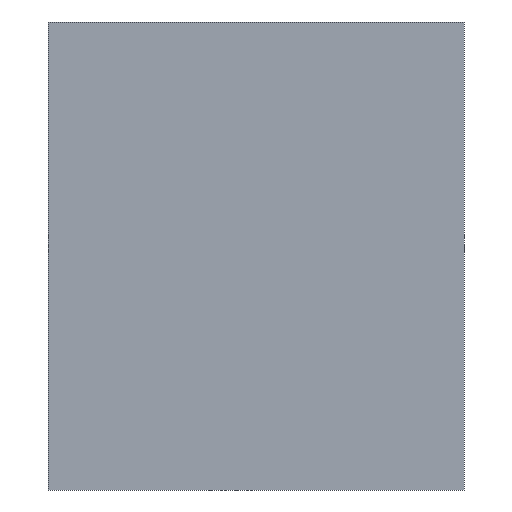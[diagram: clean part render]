
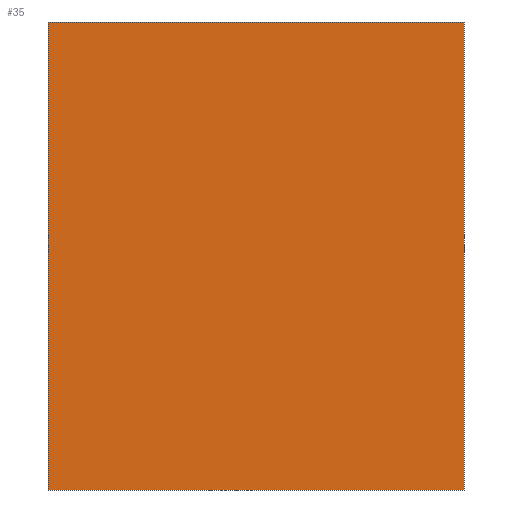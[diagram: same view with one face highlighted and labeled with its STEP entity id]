
A CAD part, left-side view. The second image highlights one B-rep face of the part: STEP entity #35.
In plain terms, the highlighted planar face has unit normal (-1, 0, 0).
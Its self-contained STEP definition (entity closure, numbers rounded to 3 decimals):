
#35 = ADVANCED_FACE('',(#36),#50,.F.);
#36 = FACE_BOUND('',#37,.F.);
#37 = EDGE_LOOP('',(#38,#73,#101,#129));
#38 = ORIENTED_EDGE('',*,*,#39,.F.);
#39 = EDGE_CURVE('',#40,#42,#44,.T.);
#40 = VERTEX_POINT('',#41);
#41 = CARTESIAN_POINT('',(-0.5,-4.,-4.5));
#42 = VERTEX_POINT('',#43);
#43 = CARTESIAN_POINT('',(-0.5,-4.,4.5));
#44 = SURFACE_CURVE('',#45,(#49,#61),.PCURVE_S1.);
#45 = LINE('',#46,#47);
#46 = CARTESIAN_POINT('',(-0.5,-4.,-4.5));
#47 = VECTOR('',#48,1.);
#48 = DIRECTION('',(0.,0.,1.));
#49 = PCURVE('',#50,#55);
#50 = PLANE('',#51);
#51 = AXIS2_PLACEMENT_3D('',#52,#53,#54);
#52 = CARTESIAN_POINT('',(-0.5,-4.,-4.5));
#53 = DIRECTION('',(1.,0.,-0.));
#54 = DIRECTION('',(0.,0.,1.));
#55 = DEFINITIONAL_REPRESENTATION('',(#56),#60);
#56 = LINE('',#57,#58);
#57 = CARTESIAN_POINT('',(0.,0.));
#58 = VECTOR('',#59,1.);
#59 = DIRECTION('',(1.,0.));
#60 = ( GEOMETRIC_REPRESENTATION_CONTEXT(2) 
PARAMETRIC_REPRESENTATION_CONTEXT() REPRESENTATION_CONTEXT('2D SPACE',''
  ) );
#61 = PCURVE('',#62,#67);
#62 = PLANE('',#63);
#63 = AXIS2_PLACEMENT_3D('',#64,#65,#66);
#64 = CARTESIAN_POINT('',(-0.5,-4.,-4.5));
#65 = DIRECTION('',(-0.,1.,0.));
#66 = DIRECTION('',(0.,0.,1.));
#67 = DEFINITIONAL_REPRESENTATION('',(#68),#72);
#68 = LINE('',#69,#70);
#69 = CARTESIAN_POINT('',(0.,0.));
#70 = VECTOR('',#71,1.);
#71 = DIRECTION('',(1.,0.));
#72 = ( GEOMETRIC_REPRESENTATION_CONTEXT(2) 
PARAMETRIC_REPRESENTATION_CONTEXT() REPRESENTATION_CONTEXT('2D SPACE',''
  ) );
#73 = ORIENTED_EDGE('',*,*,#74,.T.);
#74 = EDGE_CURVE('',#40,#75,#77,.T.);
#75 = VERTEX_POINT('',#76);
#76 = CARTESIAN_POINT('',(-0.5,4.,-4.5));
#77 = SURFACE_CURVE('',#78,(#82,#89),.PCURVE_S1.);
#78 = LINE('',#79,#80);
#79 = CARTESIAN_POINT('',(-0.5,-4.,-4.5));
#80 = VECTOR('',#81,1.);
#81 = DIRECTION('',(-0.,1.,0.));
#82 = PCURVE('',#50,#83);
#83 = DEFINITIONAL_REPRESENTATION('',(#84),#88);
#84 = LINE('',#85,#86);
#85 = CARTESIAN_POINT('',(0.,0.));
#86 = VECTOR('',#87,1.);
#87 = DIRECTION('',(0.,-1.));
#88 = ( GEOMETRIC_REPRESENTATION_CONTEXT(2) 
PARAMETRIC_REPRESENTATION_CONTEXT() REPRESENTATION_CONTEXT('2D SPACE',''
  ) );
#89 = PCURVE('',#90,#95);
#90 = PLANE('',#91);
#91 = AXIS2_PLACEMENT_3D('',#92,#93,#94);
#92 = CARTESIAN_POINT('',(-0.5,-4.,-4.5));
#93 = DIRECTION('',(0.,0.,1.));
#94 = DIRECTION('',(1.,0.,-0.));
#95 = DEFINITIONAL_REPRESENTATION('',(#96),#100);
#96 = LINE('',#97,#98);
#97 = CARTESIAN_POINT('',(0.,0.));
#98 = VECTOR('',#99,1.);
#99 = DIRECTION('',(0.,1.));
#100 = ( GEOMETRIC_REPRESENTATION_CONTEXT(2) 
PARAMETRIC_REPRESENTATION_CONTEXT() REPRESENTATION_CONTEXT('2D SPACE',''
  ) );
#101 = ORIENTED_EDGE('',*,*,#102,.T.);
#102 = EDGE_CURVE('',#75,#103,#105,.T.);
#103 = VERTEX_POINT('',#104);
#104 = CARTESIAN_POINT('',(-0.5,4.,4.5));
#105 = SURFACE_CURVE('',#106,(#110,#117),.PCURVE_S1.);
#106 = LINE('',#107,#108);
#107 = CARTESIAN_POINT('',(-0.5,4.,-4.5));
#108 = VECTOR('',#109,1.);
#109 = DIRECTION('',(0.,0.,1.));
#110 = PCURVE('',#50,#111);
#111 = DEFINITIONAL_REPRESENTATION('',(#112),#116);
#112 = LINE('',#113,#114);
#113 = CARTESIAN_POINT('',(0.,-8.));
#114 = VECTOR('',#115,1.);
#115 = DIRECTION('',(1.,0.));
#116 = ( GEOMETRIC_REPRESENTATION_CONTEXT(2) 
PARAMETRIC_REPRESENTATION_CONTEXT() REPRESENTATION_CONTEXT('2D SPACE',''
  ) );
#117 = PCURVE('',#118,#123);
#118 = PLANE('',#119);
#119 = AXIS2_PLACEMENT_3D('',#120,#121,#122);
#120 = CARTESIAN_POINT('',(-0.5,4.,-4.5));
#121 = DIRECTION('',(-0.,1.,0.));
#122 = DIRECTION('',(0.,0.,1.));
#123 = DEFINITIONAL_REPRESENTATION('',(#124),#128);
#124 = LINE('',#125,#126);
#125 = CARTESIAN_POINT('',(0.,0.));
#126 = VECTOR('',#127,1.);
#127 = DIRECTION('',(1.,0.));
#128 = ( GEOMETRIC_REPRESENTATION_CONTEXT(2) 
PARAMETRIC_REPRESENTATION_CONTEXT() REPRESENTATION_CONTEXT('2D SPACE',''
  ) );
#129 = ORIENTED_EDGE('',*,*,#130,.F.);
#130 = EDGE_CURVE('',#42,#103,#131,.T.);
#131 = SURFACE_CURVE('',#132,(#136,#143),.PCURVE_S1.);
#132 = LINE('',#133,#134);
#133 = CARTESIAN_POINT('',(-0.5,-4.,4.5));
#134 = VECTOR('',#135,1.);
#135 = DIRECTION('',(-0.,1.,0.));
#136 = PCURVE('',#50,#137);
#137 = DEFINITIONAL_REPRESENTATION('',(#138),#142);
#138 = LINE('',#139,#140);
#139 = CARTESIAN_POINT('',(9.,0.));
#140 = VECTOR('',#141,1.);
#141 = DIRECTION('',(0.,-1.));
#142 = ( GEOMETRIC_REPRESENTATION_CONTEXT(2) 
PARAMETRIC_REPRESENTATION_CONTEXT() REPRESENTATION_CONTEXT('2D SPACE',''
  ) );
#143 = PCURVE('',#144,#149);
#144 = PLANE('',#145);
#145 = AXIS2_PLACEMENT_3D('',#146,#147,#148);
#146 = CARTESIAN_POINT('',(-0.5,-4.,4.5));
#147 = DIRECTION('',(0.,0.,1.));
#148 = DIRECTION('',(1.,0.,-0.));
#149 = DEFINITIONAL_REPRESENTATION('',(#150),#154);
#150 = LINE('',#151,#152);
#151 = CARTESIAN_POINT('',(0.,0.));
#152 = VECTOR('',#153,1.);
#153 = DIRECTION('',(0.,1.));
#154 = ( GEOMETRIC_REPRESENTATION_CONTEXT(2) 
PARAMETRIC_REPRESENTATION_CONTEXT() REPRESENTATION_CONTEXT('2D SPACE',''
  ) );
